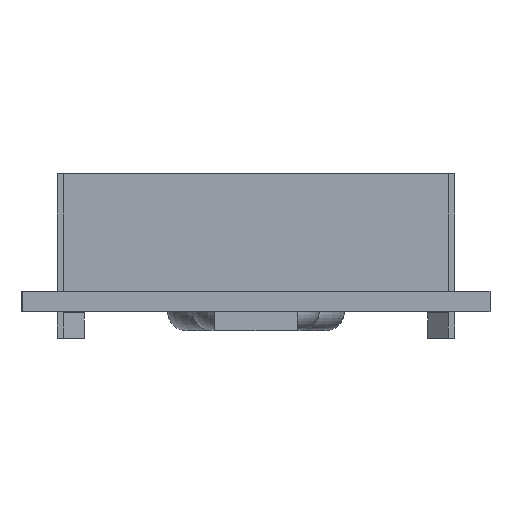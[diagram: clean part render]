
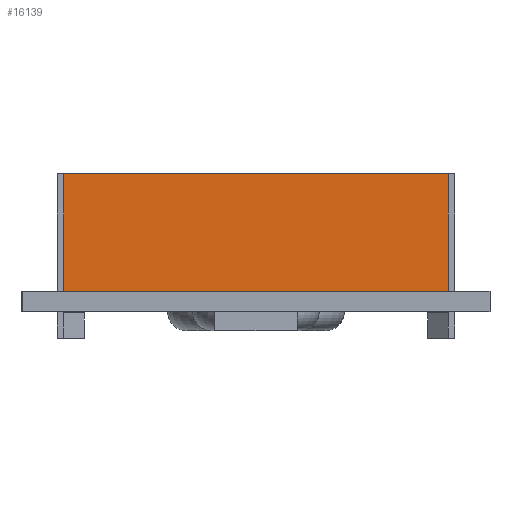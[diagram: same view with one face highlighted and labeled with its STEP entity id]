
A CAD part, left-side view. The second image highlights one B-rep face of the part: STEP entity #16139.
In plain terms, the highlighted planar face has unit normal (-1, 0, 0).
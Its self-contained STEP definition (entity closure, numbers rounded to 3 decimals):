
#271 = EDGE_CURVE ( 'NONE', #11214, #2777, #9100, .T. ) ;
#537 = VECTOR ( 'NONE', #19871, 1000. ) ;
#673 = CARTESIAN_POINT ( 'NONE',  ( -44.7, 15.2, 10.9 ) ) ;
#775 = FACE_OUTER_BOUND ( 'NONE', #16349, .T. ) ;
#1072 = CARTESIAN_POINT ( 'NONE',  ( -44.7, -15.2, 1.6 ) ) ;
#1146 = CARTESIAN_POINT ( 'NONE',  ( -44.7, -15.2, 10.9 ) ) ;
#1754 = DIRECTION ( 'NONE',  ( 1., 0., 0. ) ) ;
#2213 = CARTESIAN_POINT ( 'NONE',  ( -44.7, -15.2, 10.9 ) ) ;
#2777 = VERTEX_POINT ( 'NONE', #6133 ) ;
#3493 = ORIENTED_EDGE ( 'NONE', *, *, #13684, .T. ) ;
#6133 = CARTESIAN_POINT ( 'NONE',  ( -44.7, -15.2, 1.6 ) ) ;
#6656 = CARTESIAN_POINT ( 'NONE',  ( -44.7, 15.2, 1.6 ) ) ;
#6944 = AXIS2_PLACEMENT_3D ( 'NONE', #11413, #1754, #13027 ) ;
#7662 = ORIENTED_EDGE ( 'NONE', *, *, #271, .T. ) ;
#8608 = ORIENTED_EDGE ( 'NONE', *, *, #15930, .F. ) ;
#9100 = LINE ( 'NONE', #1072, #537 ) ;
#9863 = LINE ( 'NONE', #10357, #14165 ) ;
#10357 = CARTESIAN_POINT ( 'NONE',  ( -44.7, -15.2, 10.9 ) ) ;
#11214 = VERTEX_POINT ( 'NONE', #6656 ) ;
#11413 = CARTESIAN_POINT ( 'NONE',  ( -44.7, -15.2, 10.9 ) ) ;
#12955 = PLANE ( 'NONE',  #6944 ) ;
#13027 = DIRECTION ( 'NONE',  ( 0., 0., -1. ) ) ;
#13560 = DIRECTION ( 'NONE',  ( 0., -1., 0. ) ) ;
#13684 = EDGE_CURVE ( 'NONE', #18178, #11214, #16410, .T. ) ;
#14165 = VECTOR ( 'NONE', #13560, 1000. ) ;
#15214 = LINE ( 'NONE', #1146, #17979 ) ;
#15930 = EDGE_CURVE ( 'NONE', #17554, #2777, #15214, .T. ) ;
#16068 = ORIENTED_EDGE ( 'NONE', *, *, #20904, .F. ) ;
#16139 = ADVANCED_FACE ( 'NONE', ( #775 ), #12955, .F. ) ;
#16349 = EDGE_LOOP ( 'NONE', ( #7662, #8608, #16068, #3493 ) ) ;
#16410 = LINE ( 'NONE', #673, #20694 ) ;
#17554 = VERTEX_POINT ( 'NONE', #2213 ) ;
#17979 = VECTOR ( 'NONE', #20512, 1000. ) ;
#18178 = VERTEX_POINT ( 'NONE', #18385 ) ;
#18385 = CARTESIAN_POINT ( 'NONE',  ( -44.7, 15.2, 10.9 ) ) ;
#18420 = DIRECTION ( 'NONE',  ( 0., 0., -1. ) ) ;
#19871 = DIRECTION ( 'NONE',  ( 0., -1., 0. ) ) ;
#20512 = DIRECTION ( 'NONE',  ( 0., 0., -1. ) ) ;
#20694 = VECTOR ( 'NONE', #18420, 1000. ) ;
#20904 = EDGE_CURVE ( 'NONE', #18178, #17554, #9863, .T. ) ;
